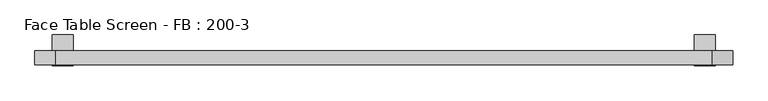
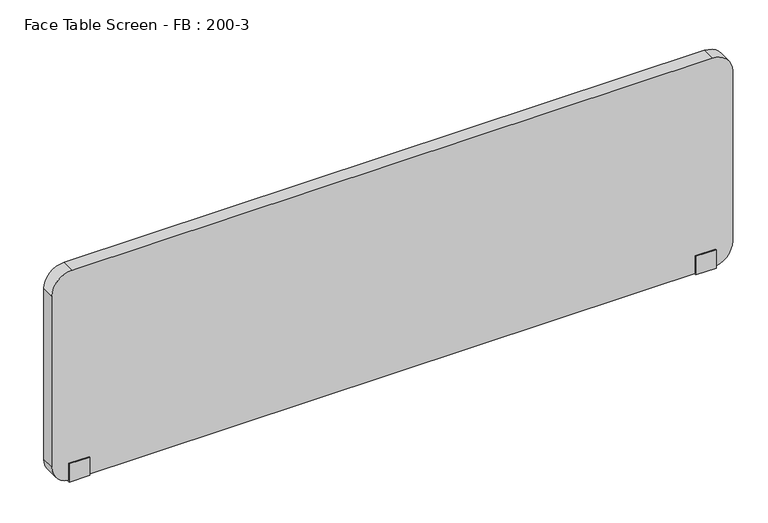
"""IFC4 building model written with IfcOpenShell, lengths in millimetres: furniture geometry, Face Table Screen - FB : 200-3."""

from ifc_helpers import new_model, si_unit, point, frame, frame_2d, origin, place, context, project, spatial, polyline, circle_curve, trimmed, segment, composite_curve, outline, extrude, source, transform, mapped, element, save


def face_table_screen_fb_200_3_047b05c5(model_context):
    return source(origin(), model_context, "Body", "SweptSolid", [
        extrude(outline(polyline([(-42.9999947, -256.0), (-42.9999997, -199.0433898), (-40.0, -199.0433898), (-40.0, -253.0), (0.0, -253.0), (0.0, -22.0), (45.0, -22.0), (45.0, -25.0433898), (3.0000062, -25.0433898), (2.9999947, -256.0), (-42.9999947, -256.0)])), frame((909.9863751, 0.0, 0.0), z_axis=(1.0, 0.0, 0.0), x_axis=(0.0, 1.0, 0.0)), (0.0, 0.0, 1.0), 60.0),
        extrude(outline(polyline([(-42.9999947, -256.0), (-42.9999997, -199.0433898), (-40.0, -199.0433898), (-40.0, -253.0), (0.0, -253.0), (0.0, -22.0), (45.0, -22.0), (45.0, -25.0433898), (3.0000062, -25.0433898), (2.9999947, -256.0), (-42.9999947, -256.0)])), frame((-930.0136249, 0.0, 0.0), z_axis=(1.0, 0.0, 0.0), x_axis=(0.0, 1.0, 0.0)), (0.0, 0.0, 1.0), 60.0),
        extrude(outline(composite_curve([segment(polyline([(397.0, 959.9863751), (397.0, -920.0136249)]), True, "CONTINUOUS"), segment(trimmed(circle_curve(frame_2d((337.0, -920.0136249)), 60.0), [point((397.0, -920.0136249))], [point((337.0, -980.0136249))], False, "CARTESIAN"), True, "CONTINUOUS"), segment(polyline([(337.0, -980.0136249), (-193.0, -980.0136249)]), True, "CONTINUOUS"), segment(trimmed(circle_curve(frame_2d((-193.0, -920.0136249)), 60.0), [point((-193.0, -980.0136249))], [point((-253.0, -920.0136249))], False, "CARTESIAN"), True, "CONTINUOUS"), segment(polyline([(-253.0, -920.0136249), (-253.0, 959.9863751)]), True, "CONTINUOUS"), segment(trimmed(circle_curve(frame_2d((-193.0, 959.9863751)), 60.0), [point((-253.0, 959.9863751))], [point((-193.0, 1019.9863751))], False, "CARTESIAN"), True, "CONTINUOUS"), segment(polyline([(-193.0, 1019.9863751), (337.0, 1019.9863751)]), True, "CONTINUOUS"), segment(trimmed(circle_curve(frame_2d((337.0, 959.9863751)), 60.0), [point((337.0, 1019.9863751))], [point((397.0, 959.9863751))], False, "CARTESIAN"), True, "CONTINUOUS")], self_intersect=False)), frame((0.0, -40.0, 0.0), z_axis=(0.0, 1.0, 0.0), x_axis=(0.0, 0.0, 1.0)), (0.0, 0.0, 1.0), 40.0),
    ])


if __name__ == "__main__":
    model = new_model("IFC4")
    model_context = context("Model", 3, world=origin())
    ifc_project = project(units=[si_unit("LENGTHUNIT", "METRE", prefix="MILLI")], contexts=[model_context])
    site = spatial("IfcSite", under=ifc_project)
    building = spatial("IfcBuilding", under=site)
    placement = place(None, origin())
    face_table_screen_fb_200_3_shape = face_table_screen_fb_200_3_047b05c5(model_context)
    element("IfcFurniture", 1, ObjectType="Face Table Screen - FB : 200-3", at=placement, inside=building, context=model_context, shape_type="MappedRepresentation", body=[
        mapped(face_table_screen_fb_200_3_shape, transform((0.0, 0.0, 0.0), x_axis=(1.0, 0.0, 0.0), y_axis=(0.0, 1.0, 0.0), z_axis=(0.0, 0.0, 1.0))),
    ])
    save(model, "model.ifc")
